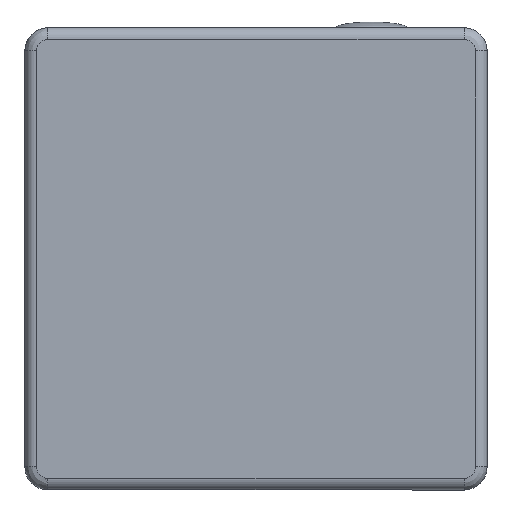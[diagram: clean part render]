
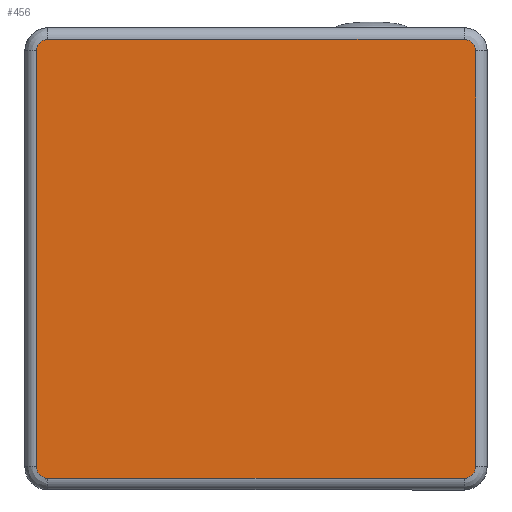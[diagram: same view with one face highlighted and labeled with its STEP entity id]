
A CAD part, left-side view. The second image highlights one B-rep face of the part: STEP entity #456.
In plain terms, the highlighted planar face has unit normal (-1, 0, 0).
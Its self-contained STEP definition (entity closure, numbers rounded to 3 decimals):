
#32=PLANE('',#523);
#40=LINE('',#779,#67);
#42=LINE('',#799,#69);
#44=LINE('',#819,#71);
#45=LINE('',#835,#72);
#67=VECTOR('',#592,10.);
#69=VECTOR('',#604,10.);
#71=VECTOR('',#616,10.);
#72=VECTOR('',#625,10.);
#122=FACE_OUTER_BOUND('',#155,.T.);
#155=EDGE_LOOP('',(#374,#375,#376,#377,#378,#379,#380,#381));
#181=CIRCLE('',#498,0.5);
#187=CIRCLE('',#505,0.5);
#191=CIRCLE('',#510,0.5);
#195=CIRCLE('',#515,0.5);
#218=VERTEX_POINT('',#767);
#219=VERTEX_POINT('',#769);
#221=VERTEX_POINT('',#775);
#223=VERTEX_POINT('',#789);
#225=VERTEX_POINT('',#795);
#227=VERTEX_POINT('',#809);
#229=VERTEX_POINT('',#815);
#231=VERTEX_POINT('',#829);
#257=EDGE_CURVE('',#218,#219,#181,.T.);
#262=EDGE_CURVE('',#219,#221,#40,.T.);
#265=EDGE_CURVE('',#221,#223,#187,.T.);
#268=EDGE_CURVE('',#223,#225,#42,.T.);
#271=EDGE_CURVE('',#225,#227,#191,.T.);
#274=EDGE_CURVE('',#227,#229,#44,.T.);
#277=EDGE_CURVE('',#229,#231,#195,.T.);
#278=EDGE_CURVE('',#231,#218,#45,.T.);
#374=ORIENTED_EDGE('',*,*,#257,.F.);
#375=ORIENTED_EDGE('',*,*,#278,.F.);
#376=ORIENTED_EDGE('',*,*,#277,.F.);
#377=ORIENTED_EDGE('',*,*,#274,.F.);
#378=ORIENTED_EDGE('',*,*,#271,.F.);
#379=ORIENTED_EDGE('',*,*,#268,.F.);
#380=ORIENTED_EDGE('',*,*,#265,.F.);
#381=ORIENTED_EDGE('',*,*,#262,.F.);
#456=ADVANCED_FACE('',(#122),#32,.F.);
#498=AXIS2_PLACEMENT_3D('',#770,#581,#582);
#505=AXIS2_PLACEMENT_3D('',#793,#597,#598);
#510=AXIS2_PLACEMENT_3D('',#813,#609,#610);
#515=AXIS2_PLACEMENT_3D('',#833,#621,#622);
#523=AXIS2_PLACEMENT_3D('',#855,#646,#647);
#581=DIRECTION('center_axis',(1.,0.,0.));
#582=DIRECTION('ref_axis',(0.,0.707,-0.707));
#592=DIRECTION('',(0.,0.,1.));
#597=DIRECTION('center_axis',(1.,0.,0.));
#598=DIRECTION('ref_axis',(0.,0.707,0.707));
#604=DIRECTION('',(0.,-1.,0.));
#609=DIRECTION('center_axis',(1.,0.,0.));
#610=DIRECTION('ref_axis',(0.,-0.707,0.707));
#616=DIRECTION('',(0.,0.,-1.));
#621=DIRECTION('center_axis',(1.,0.,0.));
#622=DIRECTION('ref_axis',(0.,-0.707,-0.707));
#625=DIRECTION('',(0.,1.,0.));
#646=DIRECTION('center_axis',(1.,0.,0.));
#647=DIRECTION('ref_axis',(0.,1.,0.));
#767=CARTESIAN_POINT('',(0.,9.,-9.5));
#769=CARTESIAN_POINT('',(0.,9.5,-9.));
#770=CARTESIAN_POINT('Origin',(0.,9.,-9.));
#775=CARTESIAN_POINT('',(0.,9.5,9.));
#779=CARTESIAN_POINT('',(0.,9.5,-5.));
#789=CARTESIAN_POINT('',(0.,9.,9.5));
#793=CARTESIAN_POINT('Origin',(0.,9.,9.));
#795=CARTESIAN_POINT('',(0.,-9.,9.5));
#799=CARTESIAN_POINT('',(0.,5.,9.5));
#809=CARTESIAN_POINT('',(0.,-9.5,9.));
#813=CARTESIAN_POINT('Origin',(0.,-9.,9.));
#815=CARTESIAN_POINT('',(0.,-9.5,-9.));
#819=CARTESIAN_POINT('',(0.,-9.5,5.));
#829=CARTESIAN_POINT('',(0.,-9.,-9.5));
#833=CARTESIAN_POINT('Origin',(0.,-9.,-9.));
#835=CARTESIAN_POINT('',(0.,-5.,-9.5));
#855=CARTESIAN_POINT('Origin',(0.,0.,0.));
